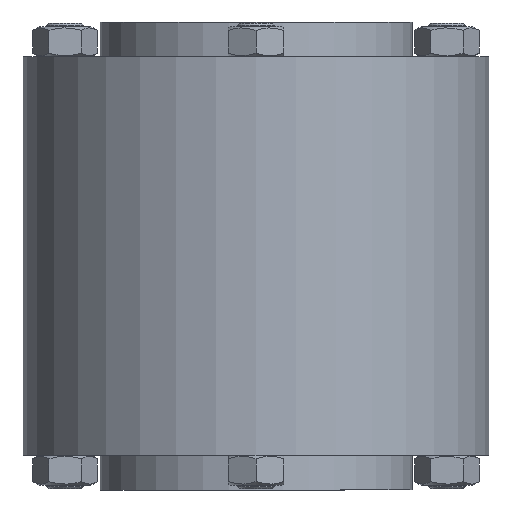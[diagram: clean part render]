
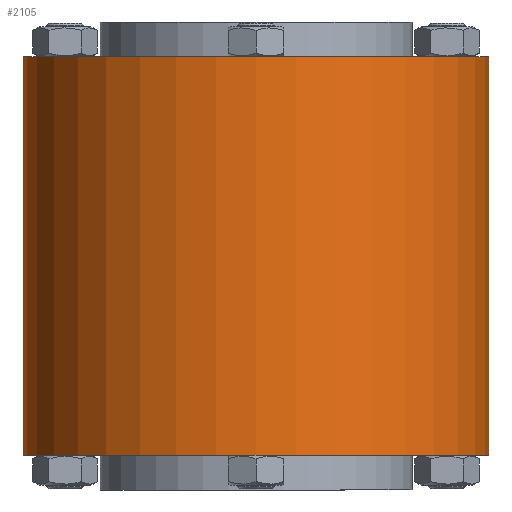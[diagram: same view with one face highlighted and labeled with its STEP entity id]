
A CAD part, front view. The second image highlights one B-rep face of the part: STEP entity #2105.
In plain terms, the highlighted cylindrical face has radius 100 mm (diameter 200 mm), a full revolution.
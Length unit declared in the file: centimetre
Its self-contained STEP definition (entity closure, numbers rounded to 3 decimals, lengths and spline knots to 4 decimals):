
#34=CYLINDRICAL_SURFACE('',#2313,10.);
#362=FACE_BOUND('',#710,.T.);
#520=FACE_OUTER_BOUND('',#709,.T.);
#709=EDGE_LOOP('',(#1689));
#710=EDGE_LOOP('',(#1690));
#882=CIRCLE('',#2314,10.);
#883=CIRCLE('',#2315,10.);
#1062=VERTEX_POINT('',#3516);
#1063=VERTEX_POINT('',#3518);
#1296=EDGE_CURVE('',#1062,#1062,#882,.T.);
#1297=EDGE_CURVE('',#1063,#1063,#883,.T.);
#1689=ORIENTED_EDGE('',*,*,#1296,.F.);
#1690=ORIENTED_EDGE('',*,*,#1297,.F.);
#2105=ADVANCED_FACE('',(#520,#362),#34,.T.);
#2313=AXIS2_PLACEMENT_3D('',#3515,#2741,#2742);
#2314=AXIS2_PLACEMENT_3D('',#3517,#2743,#2744);
#2315=AXIS2_PLACEMENT_3D('',#3519,#2745,#2746);
#2741=DIRECTION('center_axis',(0.,0.,
-1.));
#2742=DIRECTION('ref_axis',(0.,-1.,0.));
#2743=DIRECTION('center_axis',(0.,0.,
1.));
#2744=DIRECTION('ref_axis',(0.,-1.,0.));
#2745=DIRECTION('center_axis',(0.,0.,
-1.));
#2746=DIRECTION('ref_axis',(1.,0.,0.));
#3515=CARTESIAN_POINT('Origin',(0.,0.,
-8.125));
#3516=CARTESIAN_POINT('',(-10.,0.,8.55));
#3517=CARTESIAN_POINT('Origin',(0.,0.,
8.55));
#3518=CARTESIAN_POINT('',(-10.,0.,-8.55));
#3519=CARTESIAN_POINT('Origin',(0.,0.,
-8.55));
